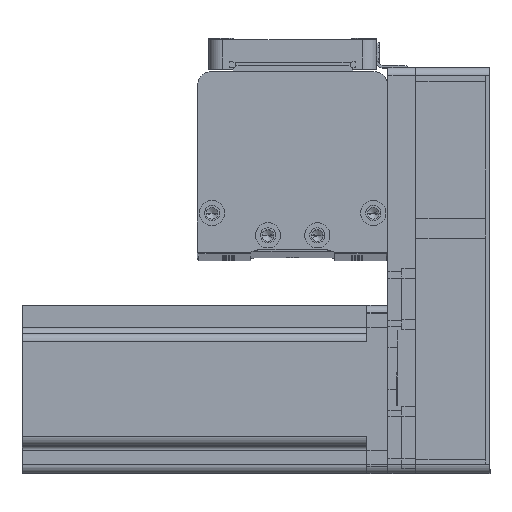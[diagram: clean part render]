
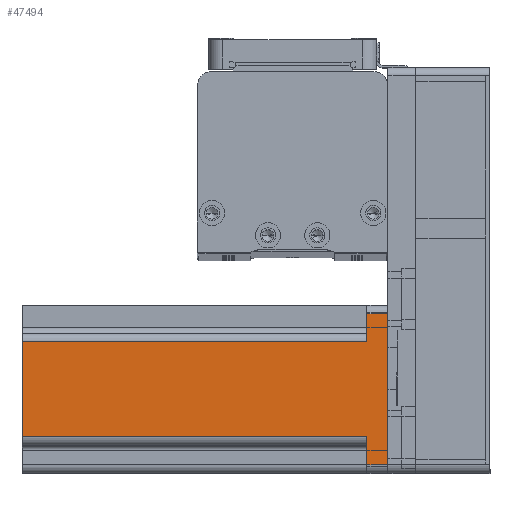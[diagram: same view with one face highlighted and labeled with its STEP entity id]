
A CAD part, top view. The second image highlights one B-rep face of the part: STEP entity #47494.
In plain terms, the highlighted planar face has unit normal (0, 0, 1) as drawn and (0, 1, 0) by its records, which use the part's own axes.
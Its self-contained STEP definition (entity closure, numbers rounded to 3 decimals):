
#1068 = EDGE_CURVE ( 'NONE', #27608, #4038, #38661, .T. ) ;
#1097 = CARTESIAN_POINT ( 'NONE',  ( 17., 30., 130.7 ) ) ;
#1244 = CARTESIAN_POINT ( 'NONE',  ( 27., 30., 7.5 ) ) ;
#1523 = CARTESIAN_POINT ( 'NONE',  ( -17., 30., 130.7 ) ) ;
#1965 = CARTESIAN_POINT ( 'NONE',  ( -17., 30., 7.5 ) ) ;
#2268 = CARTESIAN_POINT ( 'NONE',  ( 27., 30., 130.7 ) ) ;
#2454 = VERTEX_POINT ( 'NONE', #1244 ) ;
#4038 = VERTEX_POINT ( 'NONE', #8502 ) ;
#4123 = VERTEX_POINT ( 'NONE', #43806 ) ;
#4239 = ORIENTED_EDGE ( 'NONE', *, *, #28447, .T. ) ;
#5008 = DIRECTION ( 'NONE',  ( 0., 0., 1. ) ) ;
#5500 = CARTESIAN_POINT ( 'NONE',  ( 17., 30., 7.5 ) ) ;
#7191 = CARTESIAN_POINT ( 'NONE',  ( -27., 30., 130.7 ) ) ;
#7927 = LINE ( 'NONE', #13066, #37585 ) ;
#8502 = CARTESIAN_POINT ( 'NONE',  ( -27., 30., 0. ) ) ;
#9712 = EDGE_LOOP ( 'NONE', ( #4239, #20345, #28890, #47530, #21884, #20661, #17558, #46192 ) ) ;
#10345 = LINE ( 'NONE', #1097, #39991 ) ;
#11116 = DIRECTION ( 'NONE',  ( 0., 0., 1. ) ) ;
#13066 = CARTESIAN_POINT ( 'NONE',  ( -20., 30., 7.5 ) ) ;
#13148 = LINE ( 'NONE', #7191, #42794 ) ;
#13274 = CARTESIAN_POINT ( 'NONE',  ( 30., 30., 130.7 ) ) ;
#13346 = EDGE_CURVE ( 'NONE', #4123, #48223, #10345, .T. ) ;
#14962 = VECTOR ( 'NONE', #40343, 1000. ) ;
#15028 = EDGE_CURVE ( 'NONE', #2454, #48223, #40481, .T. ) ;
#16277 = CARTESIAN_POINT ( 'NONE',  ( -17., 30., 130.7 ) ) ;
#17558 = ORIENTED_EDGE ( 'NONE', *, *, #1068, .T. ) ;
#17943 = CARTESIAN_POINT ( 'NONE',  ( 30., 30., 0. ) ) ;
#18246 = CARTESIAN_POINT ( 'NONE',  ( 20., 30., 7.5 ) ) ;
#19029 = CARTESIAN_POINT ( 'NONE',  ( -27., 30., 7.5 ) ) ;
#20284 = CARTESIAN_POINT ( 'NONE',  ( 30., 30., 130.7 ) ) ;
#20329 = DIRECTION ( 'NONE',  ( 0., 0., -1. ) ) ;
#20345 = ORIENTED_EDGE ( 'NONE', *, *, #32810, .T. ) ;
#20598 = VECTOR ( 'NONE', #5008, 1000. ) ;
#20661 = ORIENTED_EDGE ( 'NONE', *, *, #48763, .T. ) ;
#21884 = ORIENTED_EDGE ( 'NONE', *, *, #15028, .F. ) ;
#23471 = VERTEX_POINT ( 'NONE', #19029 ) ;
#24172 = DIRECTION ( 'NONE',  ( 1., 0., 0. ) ) ;
#25390 = DIRECTION ( 'NONE',  ( 0., 0., -1. ) ) ;
#25932 = FACE_OUTER_BOUND ( 'NONE', #9712, .T. ) ;
#27608 = VERTEX_POINT ( 'NONE', #50062 ) ;
#27874 = PLANE ( 'NONE',  #38402 ) ;
#28379 = VECTOR ( 'NONE', #48881, 1000. ) ;
#28447 = EDGE_CURVE ( 'NONE', #23471, #31329, #7927, .T. ) ;
#28890 = ORIENTED_EDGE ( 'NONE', *, *, #44937, .F. ) ;
#31329 = VERTEX_POINT ( 'NONE', #1965 ) ;
#32810 = EDGE_CURVE ( 'NONE', #31329, #37237, #41162, .T. ) ;
#33851 = DIRECTION ( 'NONE',  ( -1., 0., 0. ) ) ;
#35562 = LINE ( 'NONE', #13274, #14962 ) ;
#37237 = VERTEX_POINT ( 'NONE', #1523 ) ;
#37585 = VECTOR ( 'NONE', #40120, 1000. ) ;
#38402 = AXIS2_PLACEMENT_3D ( 'NONE', #20284, #47289, #24172 ) ;
#38661 = LINE ( 'NONE', #17943, #28379 ) ;
#39254 = VECTOR ( 'NONE', #33851, 1000. ) ;
#39991 = VECTOR ( 'NONE', #20329, 1000. ) ;
#40120 = DIRECTION ( 'NONE',  ( 1., 0., 0. ) ) ;
#40343 = DIRECTION ( 'NONE',  ( -1., 0., 0. ) ) ;
#40481 = LINE ( 'NONE', #18246, #39254 ) ;
#40823 = VECTOR ( 'NONE', #25390, 1000. ) ;
#41162 = LINE ( 'NONE', #16277, #20598 ) ;
#42036 = LINE ( 'NONE', #2268, #40823 ) ;
#42794 = VECTOR ( 'NONE', #11116, 1000. ) ;
#43806 = CARTESIAN_POINT ( 'NONE',  ( 17., 30., 130.7 ) ) ;
#44937 = EDGE_CURVE ( 'NONE', #4123, #37237, #35562, .T. ) ;
#46192 = ORIENTED_EDGE ( 'NONE', *, *, #47853, .T. ) ;
#47289 = DIRECTION ( 'NONE',  ( 0., -1., 0. ) ) ;
#47494 = ADVANCED_FACE ( 'NONE', ( #25932 ), #27874, .F. ) ;
#47530 = ORIENTED_EDGE ( 'NONE', *, *, #13346, .T. ) ;
#47853 = EDGE_CURVE ( 'NONE', #4038, #23471, #13148, .T. ) ;
#48223 = VERTEX_POINT ( 'NONE', #5500 ) ;
#48763 = EDGE_CURVE ( 'NONE', #2454, #27608, #42036, .T. ) ;
#48881 = DIRECTION ( 'NONE',  ( -1., 0., 0. ) ) ;
#50062 = CARTESIAN_POINT ( 'NONE',  ( 27., 30., 0. ) ) ;
